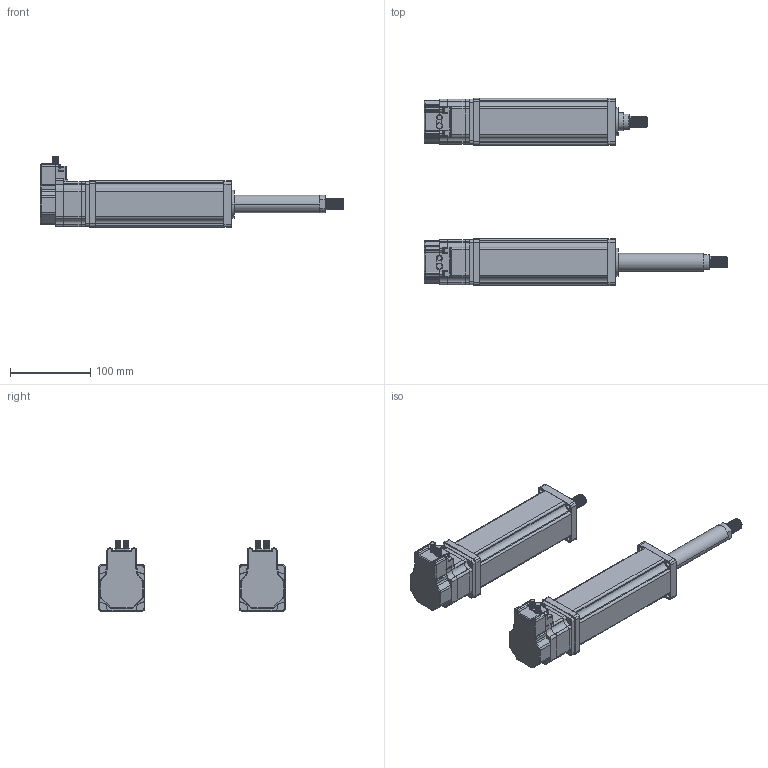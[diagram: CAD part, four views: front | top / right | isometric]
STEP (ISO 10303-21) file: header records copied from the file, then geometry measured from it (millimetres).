
FILE_DESCRIPTION(('STEP AP214'),'1');
FILE_NAME('\Tsurumi-main\3d_dad2\Servo_Motor\tmp0.STEP',' ',(' '),(' '),'XStep 1.0',' ',' ');
FILE_SCHEMA(('automotive_design'));
Length unit declared in the file: millimetre
Bounding box: 378.42 x 233.23 x 88.11 mm (x, y, z)
Volume: 1508168.1 mm3; surface area: 237769.3 mm2
Topology: 48 solids, 48 shells, 1828 faces, 5014 edges, 3286 vertices
Faces by surface type: plane 1250, cylinder 470, bspline 60, torus 36, sphere 8, cone 4
Entity records: 112259 total; most frequent: CARTESIAN_POINT 49708, ORIENTED_EDGE 9996, DIRECTION 9460, EDGE_CURVE 4998, LINE 3900, VECTOR 3900, VERTEX_POINT 3286, AXIS2_PLACEMENT_3D 2780
